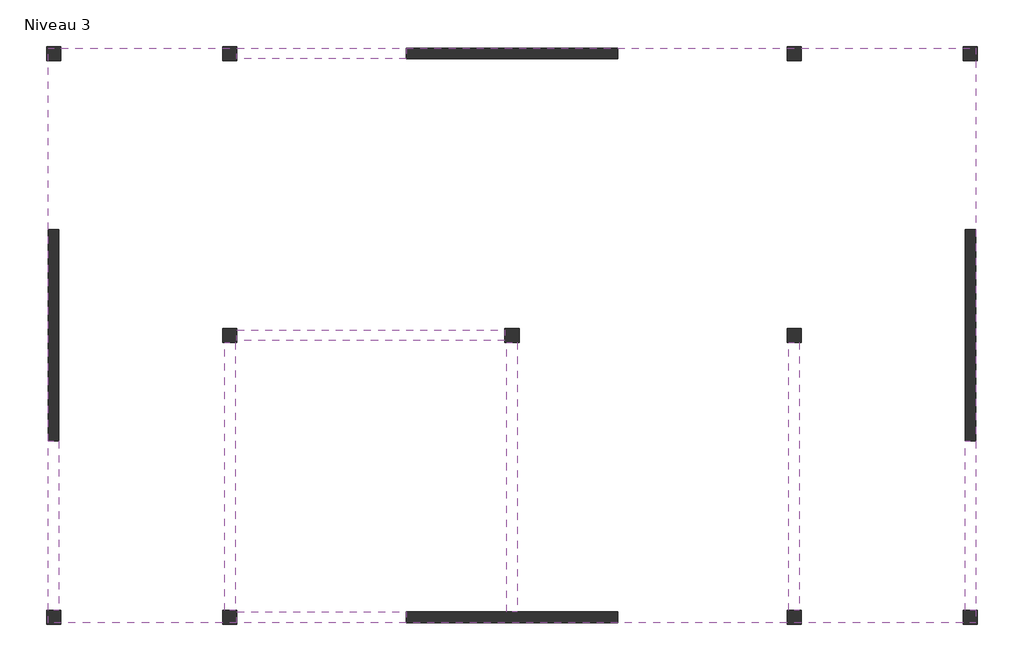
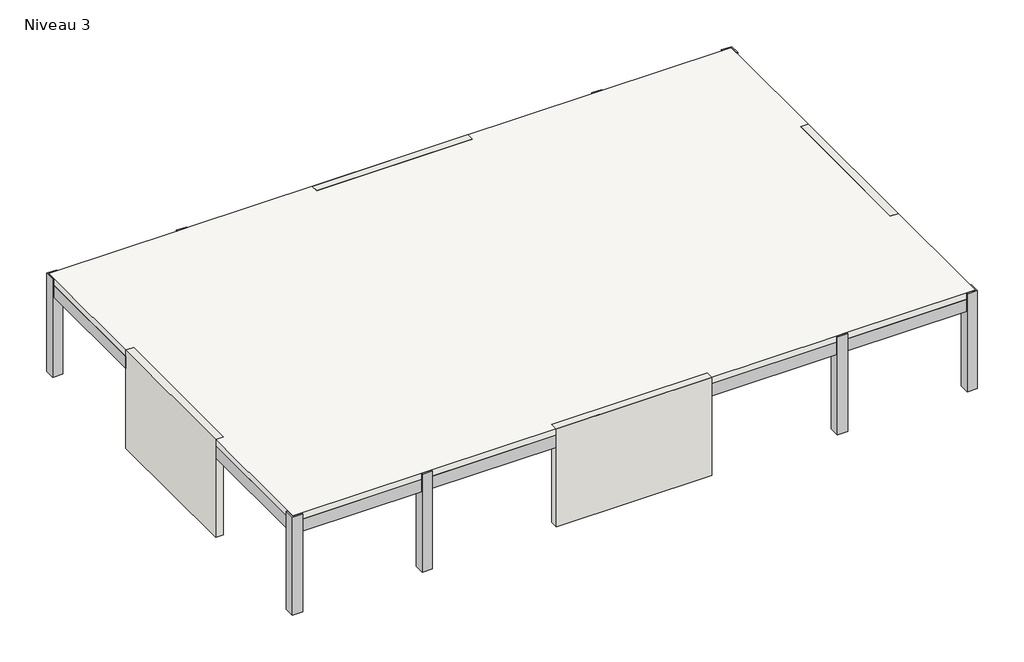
# One storey: 11 columns, 8 beams, 4 walls, 1 slab.
"""IFC4 building model written with IfcOpenShell, lengths in millimetres."""

from ifc_helpers import new_model, si_unit, frame, origin, place, context, project, spatial, polyline, outline, extrude, faceted_brep, element, save

model = new_model("IFC4")

# Units and contexts
model_context = context("Model", 3, world=origin())
ifc_project = project(units=[si_unit("LENGTHUNIT", "METRE", prefix="MILLI")], contexts=[model_context])

# Site, building, storey
site = spatial("IfcSite", under=ifc_project)
building = spatial("IfcBuilding", under=site)
storey = spatial("IfcBuildingStorey", under=building, Name="Niveau 3", Elevation=12000.0)

# Beams
placement = place(None, origin())
element("IfcBeam", 1, ObjectType="Poutre rectangulaire - Béton : 300 x 750 mm", at=placement, inside=storey, context=model_context, shape_type="SweptSolid", body=[
    extrude(outline(polyline([(-16808.6650278, 7952.7596515), (-16508.6650278, 7952.7596515), (-16508.6650278, 3152.7596515), (-16808.6650278, 3152.7596515), (-16808.6650278, 7952.7596515)])), frame((0.0, 0.0, 15250.0), z_axis=(0.0, 0.0, 1.0), x_axis=(1.0, 0.0, 0.0)), (0.0, 0.0, 1.0), 500.0),
    extrude(outline(polyline([(-16508.6650278, -7647.2403485), (-16808.6650278, -7647.2403485), (-16808.6650278, -2847.2403485), (-16508.6650278, -2847.2403485), (-16508.6650278, -7647.2403485)])), frame((0.0, 0.0, 15250.0), z_axis=(0.0, 0.0, 1.0), x_axis=(1.0, 0.0, 0.0)), (0.0, 0.0, 1.0), 500.0),
])
element("IfcBeam", 2, ObjectType="Poutre rectangulaire - Béton : 300 x 750 mm", at=placement, inside=storey, context=model_context, shape_type="SweptSolid", body=[
    extrude(outline(polyline([(-11808.6650278, 7952.7596515), (-11508.6650278, 7952.7596515), (-11508.6650278, 352.7596515), (-11808.6650278, 352.7596515), (-11808.6650278, 7952.7596515)])), frame((0.0, 0.0, 15250.0), z_axis=(0.0, 0.0, 1.0), x_axis=(1.0, 0.0, 0.0)), (0.0, 0.0, 1.0), 500.0),
    extrude(outline(polyline([(-11808.6650278, -47.2403485), (-11508.6650278, -47.2403485), (-11508.6650278, -7647.2403485), (-11808.6650278, -7647.2403485), (-11808.6650278, -47.2403485)])), frame((0.0, 0.0, 15250.0), z_axis=(0.0, 0.0, 1.0), x_axis=(1.0, 0.0, 0.0)), (0.0, 0.0, 1.0), 500.0),
])
element("IfcBeam", 3, ObjectType="Poutre rectangulaire - Béton : 300 x 750 mm", at=placement, inside=storey, context=model_context, shape_type="SweptSolid", body=[
    extrude(outline(polyline([(4491.3349722, 352.7596515), (4191.3349722, 352.7596515), (4191.3349722, 7952.7596515), (4491.3349722, 7952.7596515), (4491.3349722, 352.7596515)])), frame((0.0, 0.0, 15250.0), z_axis=(0.0, 0.0, 1.0), x_axis=(1.0, 0.0, 0.0)), (0.0, 0.0, 1.0), 500.0),
    extrude(outline(polyline([(4491.3349722, -7647.2403485), (4191.3349722, -7647.2403485), (4191.3349722, -47.2403485), (4491.3349722, -47.2403485), (4491.3349722, -7647.2403485)])), frame((0.0, 0.0, 15250.0), z_axis=(0.0, 0.0, 1.0), x_axis=(1.0, 0.0, 0.0)), (0.0, 0.0, 1.0), 500.0),
])
element("IfcBeam", 4, ObjectType="Poutre rectangulaire - Béton : 300 x 750 mm", at=placement, inside=storey, context=model_context, shape_type="SweptSolid", body=[
    extrude(outline(polyline([(9191.3349722, 7952.7596515), (9491.3349722, 7952.7596515), (9491.3349722, 3152.7596515), (9191.3349722, 3152.7596515), (9191.3349722, 7952.7596515)])), frame((0.0, 0.0, 15250.0), z_axis=(0.0, 0.0, 1.0), x_axis=(1.0, 0.0, 0.0)), (0.0, 0.0, 1.0), 500.0),
    extrude(outline(polyline([(9491.3349722, -7647.2403485), (9191.3349722, -7647.2403485), (9191.3349722, -2847.2403485), (9491.3349722, -2847.2403485), (9491.3349722, -7647.2403485)])), frame((0.0, 0.0, 15250.0), z_axis=(0.0, 0.0, 1.0), x_axis=(1.0, 0.0, 0.0)), (0.0, 0.0, 1.0), 500.0),
])
element("IfcBeam", 5, ObjectType="Poutre rectangulaire - Béton : 300 x 750 mm", at=placement, inside=storey, context=model_context, shape_type="SweptSolid", body=[
    extrude(outline(polyline([(9191.3349722, 302.7596515), (9191.3349722, 2.7596515), (4541.3349722, 2.7596515), (4541.3349722, 302.7596515), (9191.3349722, 302.7596515)])), frame((0.0, 0.0, 15250.0), z_axis=(0.0, 0.0, 1.0), x_axis=(1.0, 0.0, 0.0)), (0.0, 0.0, 1.0), 500.0),
    extrude(outline(polyline([(-16508.6650278, 2.7596515), (-16508.6650278, 302.7596515), (-11858.6650278, 302.7596515), (-11858.6650278, 2.7596515), (-16508.6650278, 2.7596515)])), frame((0.0, 0.0, 15250.0), z_axis=(0.0, 0.0, 1.0), x_axis=(1.0, 0.0, 0.0)), (0.0, 0.0, 1.0), 500.0),
    extrude(outline(polyline([(-11458.6650278, 2.7596515), (-11458.6650278, 302.7596515), (-3858.6650278, 302.7596515), (-3858.6650278, 2.7596515), (-11458.6650278, 2.7596515)])), frame((0.0, 0.0, 15250.0), z_axis=(0.0, 0.0, 1.0), x_axis=(1.0, 0.0, 0.0)), (0.0, 0.0, 1.0), 500.0),
    extrude(outline(polyline([(-3458.6650278, 2.7596515), (-3458.6650278, 302.7596515), (4141.3349722, 302.7596515), (4141.3349722, 2.7596515), (-3458.6650278, 2.7596515)])), frame((0.0, 0.0, 15250.0), z_axis=(0.0, 0.0, 1.0), x_axis=(1.0, 0.0, 0.0)), (0.0, 0.0, 1.0), 500.0),
])
element("IfcBeam", 6, ObjectType="Poutre rectangulaire - Béton : 300 x 750 mm", at=placement, inside=storey, context=model_context, shape_type="SweptSolid", body=[
    extrude(outline(polyline([(-3508.6650278, 8002.7596515), (-3508.6650278, 352.7596515), (-3808.6650278, 352.7596515), (-3808.6650278, 8002.7596515), (-3508.6650278, 8002.7596515)])), frame((0.0, 0.0, 15250.0), z_axis=(0.0, 0.0, 1.0), x_axis=(1.0, 0.0, 0.0)), (0.0, 0.0, 1.0), 500.0),
    extrude(outline(polyline([(-3508.6650278, -47.2403485), (-3508.6650278, -7697.2403485), (-3808.6650278, -7697.2403485), (-3808.6650278, -47.2403485), (-3508.6650278, -47.2403485)])), frame((0.0, 0.0, 15250.0), z_axis=(0.0, 0.0, 1.0), x_axis=(1.0, 0.0, 0.0)), (0.0, 0.0, 1.0), 500.0),
])
element("IfcBeam", 7, ObjectType="Poutre rectangulaire - Béton : 300 x 750 mm", at=placement, inside=storey, context=model_context, shape_type="SweptSolid", body=[
    extrude(outline(polyline([(-16458.6650278, -7997.2403485), (-16458.6650278, -7697.2403485), (-11858.6650278, -7697.2403485), (-11858.6650278, -7997.2403485), (-16458.6650278, -7997.2403485)])), frame((0.0, 0.0, 15250.0), z_axis=(0.0, 0.0, 1.0), x_axis=(1.0, 0.0, 0.0)), (0.0, 0.0, 1.0), 500.0),
    extrude(outline(polyline([(-11458.6650278, -7997.2403485), (-11458.6650278, -7697.2403485), (-6658.6650278, -7697.2403485), (-6658.6650278, -7997.2403485), (-11458.6650278, -7997.2403485)])), frame((0.0, 0.0, 15250.0), z_axis=(0.0, 0.0, 1.0), x_axis=(1.0, 0.0, 0.0)), (0.0, 0.0, 1.0), 500.0),
    extrude(outline(polyline([(9141.3349722, -7997.2403485), (4541.3349722, -7997.2403485), (4541.3349722, -7697.2403485), (9141.3349722, -7697.2403485), (9141.3349722, -7997.2403485)])), frame((0.0, 0.0, 15250.0), z_axis=(0.0, 0.0, 1.0), x_axis=(1.0, 0.0, 0.0)), (0.0, 0.0, 1.0), 500.0),
    extrude(outline(polyline([(4141.3349722, -7697.2403485), (4141.3349722, -7997.2403485), (-658.6650278, -7997.2403485), (-658.6650278, -7697.2403485), (4141.3349722, -7697.2403485)])), frame((0.0, 0.0, 15250.0), z_axis=(0.0, 0.0, 1.0), x_axis=(1.0, 0.0, 0.0)), (0.0, 0.0, 1.0), 500.0),
])
element("IfcBeam", 8, ObjectType="Poutre rectangulaire - Béton : 300 x 750 mm", at=placement, inside=storey, context=model_context, shape_type="SweptSolid", body=[
    extrude(outline(polyline([(-11858.6650278, 8002.7596515), (-16458.6650278, 8002.7596515), (-16458.6650278, 8302.7596515), (-11858.6650278, 8302.7596515), (-11858.6650278, 8002.7596515)])), frame((0.0, 0.0, 15250.0), z_axis=(0.0, 0.0, 1.0), x_axis=(1.0, 0.0, 0.0)), (0.0, 0.0, 1.0), 500.0),
    extrude(outline(polyline([(-11458.6650278, 8002.7596515), (-11458.6650278, 8302.7596515), (-6658.6650278, 8302.7596515), (-6658.6650278, 8002.7596515), (-11458.6650278, 8002.7596515)])), frame((0.0, 0.0, 15250.0), z_axis=(0.0, 0.0, 1.0), x_axis=(1.0, 0.0, 0.0)), (0.0, 0.0, 1.0), 500.0),
    extrude(outline(polyline([(9141.3349722, 8002.7596515), (4541.3349722, 8002.7596515), (4541.3349722, 8302.7596515), (9141.3349722, 8302.7596515), (9141.3349722, 8002.7596515)])), frame((0.0, 0.0, 15250.0), z_axis=(0.0, 0.0, 1.0), x_axis=(1.0, 0.0, 0.0)), (0.0, 0.0, 1.0), 500.0),
    extrude(outline(polyline([(4141.3349722, 8302.7596515), (4141.3349722, 8002.7596515), (-658.6650278, 8002.7596515), (-658.6650278, 8302.7596515), (4141.3349722, 8302.7596515)])), frame((0.0, 0.0, 15250.0), z_axis=(0.0, 0.0, 1.0), x_axis=(1.0, 0.0, 0.0)), (0.0, 0.0, 1.0), 500.0),
])

# Columns
element("IfcColumn", 9, ObjectType="Poteau béton - Carré : 400 mm x 400 mm", at=placement, inside=storey, context=model_context, shape_type="Brep", body=[
    faceted_brep([(-16458.6650278, 8352.7596515, 12000.0), (-16458.6650278, 7952.7596515, 12000.0), (-16858.6650278, 7952.7596515, 12000.0), (-16858.6650278, 8352.7596515, 12000.0), (-16458.6650278, 8352.7596515, 16000.0), (-16458.6650278, 8302.7596515, 16000.0), (-16458.6650278, 8302.7596515, 15750.0), (-16458.6650278, 8002.7596515, 15750.0), (-16458.6650278, 7952.7596515, 15750.0), (-16508.6650278, 7952.7596515, 15750.0), (-16808.6650278, 7952.7596515, 15750.0), (-16808.6650278, 7952.7596515, 16000.0), (-16858.6650278, 7952.7596515, 16000.0), (-16858.6650278, 8352.7596515, 16000.0), (-16808.6650278, 8302.7596515, 16000.0), (-16808.6650278, 8302.7596515, 15750.0)], [[[0, 1, 2, 3]], [[1, 0, 4, 5, 6, 7, 8]], [[2, 1, 8, 9, 10, 11, 12]], [[3, 2, 12, 13]], [[0, 3, 13, 4]], [[13, 12, 11, 14, 5, 4]], [[6, 15, 10, 9, 8, 7]], [[15, 14, 11, 10]], [[14, 15, 6, 5]]]),
])
element("IfcColumn", 10, ObjectType="Poteau béton - Carré : 400 mm x 400 mm", at=placement, inside=storey, context=model_context, shape_type="Brep", body=[
    faceted_brep([(-11458.6650278, 8352.7596515, 12000.0), (-11458.6650278, 7952.7596515, 12000.0), (-11858.6650278, 7952.7596515, 12000.0), (-11858.6650278, 8352.7596515, 12000.0), (-11458.6650278, 8352.7596515, 16000.0), (-11458.6650278, 8302.7596515, 16000.0), (-11458.6650278, 8302.7596515, 15750.0), (-11458.6650278, 8002.7596515, 15750.0), (-11458.6650278, 7952.7596515, 15750.0), (-11508.6650278, 7952.7596515, 15750.0), (-11808.6650278, 7952.7596515, 15750.0), (-11858.6650278, 7952.7596515, 15750.0), (-11858.6650278, 8002.7596515, 15750.0), (-11858.6650278, 8302.7596515, 15750.0), (-11858.6650278, 8302.7596515, 16000.0), (-11858.6650278, 8352.7596515, 16000.0)], [[[0, 1, 2, 3]], [[1, 0, 4, 5, 6, 7, 8]], [[2, 1, 8, 9, 10, 11]], [[3, 2, 11, 12, 13, 14, 15]], [[0, 3, 15, 4]], [[4, 15, 14, 5]], [[6, 13, 12, 11, 10, 9, 8, 7]], [[13, 6, 5, 14]]]),
])
element("IfcColumn", 11, ObjectType="Poteau béton - Carré : 400 mm x 400 mm", at=placement, inside=storey, context=model_context, shape_type="Brep", body=[
    faceted_brep([(-11458.6650278, 352.7596515, 12000.0), (-11458.6650278, -47.2403485, 12000.0), (-11858.6650278, -47.2403485, 12000.0), (-11858.6650278, 352.7596515, 12000.0), (-11458.6650278, 352.7596515, 15750.0), (-11458.6650278, 302.7596515, 15750.0), (-11458.6650278, 2.7596515, 15750.0), (-11458.6650278, -47.2403485, 15750.0), (-11508.6650278, -47.2403485, 15750.0), (-11808.6650278, -47.2403485, 15750.0), (-11858.6650278, -47.2403485, 15750.0), (-11858.6650278, 2.7596515, 15750.0), (-11858.6650278, 302.7596515, 15750.0), (-11858.6650278, 352.7596515, 15750.0), (-11808.6650278, 352.7596515, 15750.0), (-11508.6650278, 352.7596515, 15750.0)], [[[0, 1, 2, 3]], [[1, 0, 4, 5, 6, 7]], [[2, 1, 7, 8, 9, 10]], [[3, 2, 10, 11, 12, 13]], [[0, 3, 13, 14, 15, 4]], [[7, 6, 5, 4, 15, 14, 13, 12, 11, 10, 9, 8]]]),
])
element("IfcColumn", 12, ObjectType="Poteau béton - Carré : 400 mm x 400 mm", at=placement, inside=storey, context=model_context, shape_type="Brep", body=[
    faceted_brep([(-3458.6650278, 352.7596515, 12000.0), (-3458.6650278, -47.2403485, 12000.0), (-3858.6650278, -47.2403485, 12000.0), (-3858.6650278, 352.7596515, 12000.0), (-3458.6650278, 352.7596515, 15750.0), (-3458.6650278, 302.7596515, 15750.0), (-3458.6650278, 2.7596515, 15750.0), (-3458.6650278, -47.2403485, 15750.0), (-3508.6650278, -47.2403485, 15750.0), (-3808.6650278, -47.2403485, 15750.0), (-3858.6650278, -47.2403485, 15750.0), (-3858.6650278, 2.7596515, 15750.0), (-3858.6650278, 302.7596515, 15750.0), (-3858.6650278, 352.7596515, 15750.0), (-3808.6650278, 352.7596515, 15750.0), (-3508.6650278, 352.7596515, 15750.0)], [[[0, 1, 2, 3]], [[1, 0, 4, 5, 6, 7]], [[2, 1, 7, 8, 9, 10]], [[3, 2, 10, 11, 12, 13]], [[0, 3, 13, 14, 15, 4]], [[7, 6, 5, 4, 15, 14, 13, 12, 11, 10, 9, 8]]]),
])
element("IfcColumn", 13, ObjectType="Poteau béton - Carré : 400 mm x 400 mm", at=placement, inside=storey, context=model_context, shape_type="Brep", body=[
    faceted_brep([(-16458.6650278, -7647.2403485, 12000.0), (-16458.6650278, -8047.2403485, 12000.0), (-16858.6650278, -8047.2403485, 12000.0), (-16858.6650278, -7647.2403485, 12000.0), (-16458.6650278, -7647.2403485, 15750.0), (-16458.6650278, -7697.2403485, 15750.0), (-16458.6650278, -7997.2403485, 15750.0), (-16458.6650278, -7997.2403485, 16000.0), (-16458.6650278, -8047.2403485, 16000.0), (-16858.6650278, -8047.2403485, 16000.0), (-16858.6650278, -7647.2403485, 16000.0), (-16808.6650278, -7647.2403485, 16000.0), (-16808.6650278, -7647.2403485, 15750.0), (-16508.6650278, -7647.2403485, 15750.0), (-16808.6650278, -7997.2403485, 16000.0), (-16808.6650278, -7997.2403485, 15750.0)], [[[0, 1, 2, 3]], [[1, 0, 4, 5, 6, 7, 8]], [[2, 1, 8, 9]], [[3, 2, 9, 10]], [[0, 3, 10, 11, 12, 13, 4]], [[9, 8, 7, 14, 11, 10]], [[12, 15, 6, 5, 4, 13]], [[15, 14, 7, 6]], [[14, 15, 12, 11]]]),
])
element("IfcColumn", 14, ObjectType="Poteau béton - Carré : 400 mm x 400 mm", at=placement, inside=storey, context=model_context, shape_type="Brep", body=[
    faceted_brep([(-11458.6650278, -7647.2403485, 12000.0), (-11458.6650278, -8047.2403485, 12000.0), (-11858.6650278, -8047.2403485, 12000.0), (-11858.6650278, -7647.2403485, 12000.0), (-11458.6650278, -7647.2403485, 15750.0), (-11458.6650278, -7697.2403485, 15750.0), (-11458.6650278, -7997.2403485, 15750.0), (-11458.6650278, -7997.2403485, 16000.0), (-11458.6650278, -8047.2403485, 16000.0), (-11858.6650278, -8047.2403485, 16000.0), (-11858.6650278, -7997.2403485, 16000.0), (-11858.6650278, -7997.2403485, 15750.0), (-11858.6650278, -7697.2403485, 15750.0), (-11858.6650278, -7647.2403485, 15750.0), (-11808.6650278, -7647.2403485, 15750.0), (-11508.6650278, -7647.2403485, 15750.0)], [[[0, 1, 2, 3]], [[1, 0, 4, 5, 6, 7, 8]], [[2, 1, 8, 9]], [[3, 2, 9, 10, 11, 12, 13]], [[0, 3, 13, 14, 15, 4]], [[9, 8, 7, 10]], [[11, 6, 5, 4, 15, 14, 13, 12]], [[6, 11, 10, 7]]]),
])
element("IfcColumn", 15, ObjectType="Poteau béton - Carré : 400 mm x 400 mm", at=placement, inside=storey, context=model_context, shape_type="Brep", body=[
    faceted_brep([(4541.3349722, -7647.2403485, 12000.0), (4541.3349722, -8047.2403485, 12000.0), (4141.3349722, -8047.2403485, 12000.0), (4141.3349722, -7647.2403485, 12000.0), (4541.3349722, -7647.2403485, 15750.0), (4541.3349722, -7697.2403485, 15750.0), (4541.3349722, -7997.2403485, 15750.0), (4541.3349722, -7997.2403485, 16000.0), (4541.3349722, -8047.2403485, 16000.0), (4141.3349722, -8047.2403485, 16000.0), (4141.3349722, -7997.2403485, 16000.0), (4141.3349722, -7997.2403485, 15750.0), (4141.3349722, -7697.2403485, 15750.0), (4141.3349722, -7647.2403485, 15750.0), (4191.3349722, -7647.2403485, 15750.0), (4491.3349722, -7647.2403485, 15750.0)], [[[0, 1, 2, 3]], [[1, 0, 4, 5, 6, 7, 8]], [[2, 1, 8, 9]], [[3, 2, 9, 10, 11, 12, 13]], [[0, 3, 13, 14, 15, 4]], [[9, 8, 7, 10]], [[11, 6, 5, 4, 15, 14, 13, 12]], [[6, 11, 10, 7]]]),
])
element("IfcColumn", 16, ObjectType="Poteau béton - Carré : 400 mm x 400 mm", at=placement, inside=storey, context=model_context, shape_type="Brep", body=[
    faceted_brep([(9541.3349722, -7647.2403485, 12000.0), (9541.3349722, -8047.2403485, 12000.0), (9141.3349722, -8047.2403485, 12000.0), (9141.3349722, -7647.2403485, 12000.0), (9541.3349722, -7647.2403485, 16000.0), (9541.3349722, -8047.2403485, 16000.0), (9141.3349722, -8047.2403485, 16000.0), (9141.3349722, -7997.2403485, 16000.0), (9141.3349722, -7997.2403485, 15750.0), (9141.3349722, -7697.2403485, 15750.0), (9141.3349722, -7647.2403485, 15750.0), (9191.3349722, -7647.2403485, 15750.0), (9491.3349722, -7647.2403485, 15750.0), (9491.3349722, -7647.2403485, 16000.0), (9491.3349722, -7997.2403485, 16000.0), (9491.3349722, -7997.2403485, 15750.0)], [[[0, 1, 2, 3]], [[1, 0, 4, 5]], [[2, 1, 5, 6]], [[3, 2, 6, 7, 8, 9, 10]], [[0, 3, 10, 11, 12, 13, 4]], [[5, 4, 13, 14, 7, 6]], [[15, 12, 11, 10, 9, 8]], [[14, 15, 8, 7]], [[15, 14, 13, 12]]]),
])
element("IfcColumn", 17, ObjectType="Poteau béton - Carré : 400 mm x 400 mm", at=placement, inside=storey, context=model_context, shape_type="Brep", body=[
    faceted_brep([(4541.3349722, 352.7596515, 12000.0), (4541.3349722, -47.2403485, 12000.0), (4141.3349722, -47.2403485, 12000.0), (4141.3349722, 352.7596515, 12000.0), (4541.3349722, 352.7596515, 15750.0), (4541.3349722, 302.7596515, 15750.0), (4541.3349722, 2.7596515, 15750.0), (4541.3349722, -47.2403485, 15750.0), (4491.3349722, -47.2403485, 15750.0), (4191.3349722, -47.2403485, 15750.0), (4141.3349722, -47.2403485, 15750.0), (4141.3349722, 2.7596515, 15750.0), (4141.3349722, 302.7596515, 15750.0), (4141.3349722, 352.7596515, 15750.0), (4191.3349722, 352.7596515, 15750.0), (4491.3349722, 352.7596515, 15750.0)], [[[0, 1, 2, 3]], [[1, 0, 4, 5, 6, 7]], [[2, 1, 7, 8, 9, 10]], [[3, 2, 10, 11, 12, 13]], [[0, 3, 13, 14, 15, 4]], [[7, 6, 5, 4, 15, 14, 13, 12, 11, 10, 9, 8]]]),
])
element("IfcColumn", 18, ObjectType="Poteau béton - Carré : 400 mm x 400 mm", at=placement, inside=storey, context=model_context, shape_type="Brep", body=[
    faceted_brep([(4541.3349722, 8352.7596515, 12000.0), (4541.3349722, 7952.7596515, 12000.0), (4141.3349722, 7952.7596515, 12000.0), (4141.3349722, 8352.7596515, 12000.0), (4541.3349722, 8352.7596515, 16000.0), (4541.3349722, 8302.7596515, 16000.0), (4541.3349722, 8302.7596515, 15750.0), (4541.3349722, 8002.7596515, 15750.0), (4541.3349722, 7952.7596515, 15750.0), (4491.3349722, 7952.7596515, 15750.0), (4191.3349722, 7952.7596515, 15750.0), (4141.3349722, 7952.7596515, 15750.0), (4141.3349722, 8002.7596515, 15750.0), (4141.3349722, 8302.7596515, 15750.0), (4141.3349722, 8302.7596515, 16000.0), (4141.3349722, 8352.7596515, 16000.0)], [[[0, 1, 2, 3]], [[1, 0, 4, 5, 6, 7, 8]], [[2, 1, 8, 9, 10, 11]], [[3, 2, 11, 12, 13, 14, 15]], [[0, 3, 15, 4]], [[4, 15, 14, 5]], [[6, 13, 12, 11, 10, 9, 8, 7]], [[13, 6, 5, 14]]]),
])
element("IfcColumn", 19, ObjectType="Poteau béton - Carré : 400 mm x 400 mm", at=placement, inside=storey, context=model_context, shape_type="Brep", body=[
    faceted_brep([(9541.3349722, 8352.7596515, 12000.0), (9541.3349722, 7952.7596515, 12000.0), (9141.3349722, 7952.7596515, 12000.0), (9141.3349722, 8352.7596515, 12000.0), (9541.3349722, 8352.7596515, 16000.0), (9541.3349722, 7952.7596515, 16000.0), (9491.3349722, 7952.7596515, 16000.0), (9491.3349722, 7952.7596515, 15750.0), (9191.3349722, 7952.7596515, 15750.0), (9141.3349722, 7952.7596515, 15750.0), (9141.3349722, 8002.7596515, 15750.0), (9141.3349722, 8302.7596515, 15750.0), (9141.3349722, 8302.7596515, 16000.0), (9141.3349722, 8352.7596515, 16000.0), (9491.3349722, 8302.7596515, 16000.0), (9491.3349722, 8302.7596515, 15750.0)], [[[0, 1, 2, 3]], [[1, 0, 4, 5]], [[2, 1, 5, 6, 7, 8, 9]], [[3, 2, 9, 10, 11, 12, 13]], [[0, 3, 13, 4]], [[5, 4, 13, 12, 14, 6]], [[7, 15, 11, 10, 9, 8]], [[15, 14, 12, 11]], [[14, 15, 7, 6]]]),
])

# Slab
element("IfcSlab", 20, ObjectType="Dalle en béton - 250 mm", at=placement, inside=storey, context=model_context, shape_type="Brep", body=[
    faceted_brep([(9491.3349722, -7997.2403485, 15750.0), (9141.3349722, -7997.2403485, 15750.0), (4541.3349722, -7997.2403485, 15750.0), (4141.3349722, -7997.2403485, 15750.0), (-658.6650278, -7997.2403485, 15750.0), (-6658.6650278, -7997.2403485, 15750.0), (-11458.6650278, -7997.2403485, 15750.0), (-11858.6650278, -7997.2403485, 15750.0), (-16458.6650278, -7997.2403485, 15750.0), (-16808.6650278, -7997.2403485, 15750.0), (-16808.6650278, -7647.2403485, 15750.0), (-16808.6650278, -2847.2403485, 15750.0), (-16808.6650278, 3152.7596515, 15750.0), (-16808.6650278, 7952.7596515, 15750.0), (-16808.6650278, 8302.7596515, 15750.0), (-16458.6650278, 8302.7596515, 15750.0), (-11858.6650278, 8302.7596515, 15750.0), (-11458.6650278, 8302.7596515, 15750.0), (-6658.6650278, 8302.7596515, 15750.0), (-658.6650278, 8302.7596515, 15750.0), (4141.3349722, 8302.7596515, 15750.0), (4541.3349722, 8302.7596515, 15750.0), (9141.3349722, 8302.7596515, 15750.0), (9491.3349722, 8302.7596515, 15750.0), (9491.3349722, 7952.7596515, 15750.0), (9491.3349722, 3152.7596515, 15750.0), (9491.3349722, -2847.2403485, 15750.0), (9491.3349722, -7647.2403485, 15750.0), (9491.3349722, -7997.2403485, 16000.0), (9491.3349722, -7647.2403485, 16000.0), (9491.3349722, 7952.7596515, 16000.0), (9491.3349722, 8302.7596515, 16000.0), (9141.3349722, 8302.7596515, 16000.0), (4541.3349722, 8302.7596515, 16000.0), (4141.3349722, 8302.7596515, 16000.0), (-11458.6650278, 8302.7596515, 16000.0), (-11858.6650278, 8302.7596515, 16000.0), (-16458.6650278, 8302.7596515, 16000.0), (-16808.6650278, 8302.7596515, 16000.0), (-16808.6650278, 7952.7596515, 16000.0), (-16808.6650278, -7647.2403485, 16000.0), (-16808.6650278, -7997.2403485, 16000.0), (-16458.6650278, -7997.2403485, 16000.0), (-11858.6650278, -7997.2403485, 16000.0), (-11458.6650278, -7997.2403485, 16000.0), (4141.3349722, -7997.2403485, 16000.0), (4541.3349722, -7997.2403485, 16000.0), (9141.3349722, -7997.2403485, 16000.0)], [[[0, 1, 2, 3, 4, 5, 6, 7, 8, 9, 10, 11, 12, 13, 14, 15, 16, 17, 18, 19, 20, 21, 22, 23, 24, 25, 26, 27]], [[28, 29, 30, 31, 32, 33, 34, 35, 36, 37, 38, 39, 40, 41, 42, 43, 44, 45, 46, 47]], [[9, 8, 7, 6, 5, 4, 3, 2, 1, 0, 28, 47, 46, 45, 44, 43, 42, 41]], [[14, 13, 12, 11, 10, 9, 41, 40, 39, 38]], [[23, 22, 21, 20, 19, 18, 17, 16, 15, 14, 38, 37, 36, 35, 34, 33, 32, 31]], [[0, 27, 26, 25, 24, 23, 31, 30, 29, 28]]]),
])

# Walls
element("IfcWall", 21, ObjectType="Ext. Voile BA 30", at=placement, inside=storey, context=model_context, shape_type="Brep", body=[
    faceted_brep([(-6658.6650278, 8002.7596515, 12000.0), (-658.6650278, 8002.7596515, 12000.0), (-658.6650278, 8002.7596515, 15250.0), (-658.6650278, 8002.7596515, 15750.0), (-658.6650278, 8002.7596515, 16000.0), (-6658.6650278, 8002.7596515, 16000.0), (-6658.6650278, 8002.7596515, 15750.0), (-6658.6650278, 8002.7596515, 15250.0), (-6658.6650278, 8302.7596515, 12000.0), (-6658.6650278, 8302.7596515, 15250.0), (-6658.6650278, 8302.7596515, 15750.0), (-6658.6650278, 8302.7596515, 16000.0), (-658.6650278, 8302.7596515, 16000.0), (-658.6650278, 8302.7596515, 15750.0), (-658.6650278, 8302.7596515, 15250.0), (-658.6650278, 8302.7596515, 12000.0)], [[[0, 1, 2, 3, 4, 5, 6, 7]], [[8, 9, 10, 11, 12, 13, 14, 15]], [[1, 0, 8, 15]], [[4, 3, 2, 1, 15, 14, 13, 12]], [[5, 4, 12, 11]], [[0, 7, 6, 5, 11, 10, 9, 8]]]),
])
element("IfcWall", 22, ObjectType="Ext. Voile BA 30", at=placement, inside=storey, context=model_context, shape_type="Brep", body=[
    faceted_brep([(-6658.6650278, -7997.2403485, 12000.0), (-658.6650278, -7997.2403485, 12000.0), (-658.6650278, -7997.2403485, 15250.0), (-658.6650278, -7997.2403485, 15750.0), (-658.6650278, -7997.2403485, 16000.0), (-6658.6650278, -7997.2403485, 16000.0), (-6658.6650278, -7997.2403485, 15750.0), (-6658.6650278, -7997.2403485, 15250.0), (-6658.6650278, -7697.2403485, 12000.0), (-6658.6650278, -7697.2403485, 15250.0), (-6658.6650278, -7697.2403485, 15750.0), (-6658.6650278, -7697.2403485, 16000.0), (-658.6650278, -7697.2403485, 16000.0), (-658.6650278, -7697.2403485, 15750.0), (-658.6650278, -7697.2403485, 15250.0), (-658.6650278, -7697.2403485, 12000.0)], [[[0, 1, 2, 3, 4, 5, 6, 7]], [[8, 9, 10, 11, 12, 13, 14, 15]], [[1, 0, 8, 15]], [[4, 3, 2, 1, 15, 14, 13, 12]], [[5, 4, 12, 11]], [[0, 7, 6, 5, 11, 10, 9, 8]]]),
])
element("IfcWall", 23, ObjectType="Ext. Voile BA 30", at=placement, inside=storey, context=model_context, shape_type="Brep", body=[
    faceted_brep([(-16508.6650278, -2847.2403485, 12000.0), (-16508.6650278, 3152.7596515, 12000.0), (-16508.6650278, 3152.7596515, 15250.0), (-16508.6650278, 3152.7596515, 15750.0), (-16508.6650278, 3152.7596515, 16000.0), (-16508.6650278, -2847.2403485, 16000.0), (-16508.6650278, -2847.2403485, 15750.0), (-16508.6650278, -2847.2403485, 15250.0), (-16808.6650278, -2847.2403485, 12000.0), (-16808.6650278, -2847.2403485, 15250.0), (-16808.6650278, -2847.2403485, 15750.0), (-16808.6650278, -2847.2403485, 16000.0), (-16808.6650278, 3152.7596515, 16000.0), (-16808.6650278, 3152.7596515, 15750.0), (-16808.6650278, 3152.7596515, 15250.0), (-16808.6650278, 3152.7596515, 12000.0)], [[[0, 1, 2, 3, 4, 5, 6, 7]], [[8, 9, 10, 11, 12, 13, 14, 15]], [[1, 0, 8, 15]], [[4, 3, 2, 1, 15, 14, 13, 12]], [[5, 4, 12, 11]], [[0, 7, 6, 5, 11, 10, 9, 8]]]),
])
element("IfcWall", 24, ObjectType="Ext. Voile BA 30", at=placement, inside=storey, context=model_context, shape_type="Brep", body=[
    faceted_brep([(9491.3349722, -2847.2403485, 12000.0), (9491.3349722, 3152.7596515, 12000.0), (9491.3349722, 3152.7596515, 15250.0), (9491.3349722, 3152.7596515, 15750.0), (9491.3349722, 3152.7596515, 16000.0), (9491.3349722, -2847.2403485, 16000.0), (9491.3349722, -2847.2403485, 15750.0), (9491.3349722, -2847.2403485, 15250.0), (9191.3349722, -2847.2403485, 12000.0), (9191.3349722, -2847.2403485, 15250.0), (9191.3349722, -2847.2403485, 15750.0), (9191.3349722, -2847.2403485, 16000.0), (9191.3349722, 3152.7596515, 16000.0), (9191.3349722, 3152.7596515, 15750.0), (9191.3349722, 3152.7596515, 15250.0), (9191.3349722, 3152.7596515, 12000.0)], [[[0, 1, 2, 3, 4, 5, 6, 7]], [[8, 9, 10, 11, 12, 13, 14, 15]], [[1, 0, 8, 15]], [[4, 3, 2, 1, 15, 14, 13, 12]], [[5, 4, 12, 11]], [[0, 7, 6, 5, 11, 10, 9, 8]]]),
])

save(model, "model.ifc")
